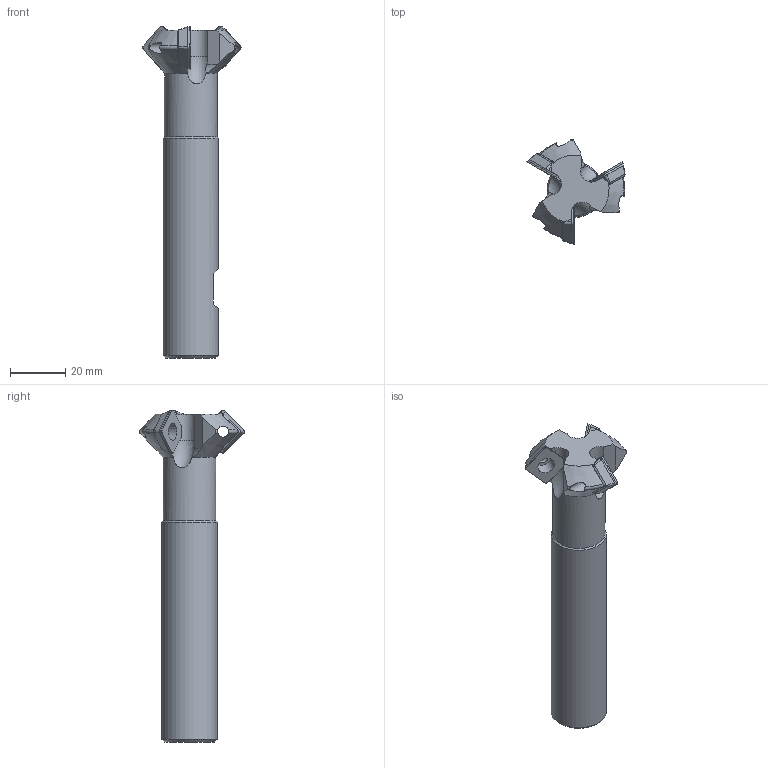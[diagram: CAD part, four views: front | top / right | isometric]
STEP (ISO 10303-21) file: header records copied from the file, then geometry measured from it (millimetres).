
FILE_DESCRIPTION(/* description */ (''),/* implementation_level */ '2;1');
FILE_NAME(/* name */ 'CE45-1125R-S20-HAAS.stp',/* time_stamp */ '2021-09-24T12:11:26+09:00',/* author */ (''),/* organization */ (''),/* preprocessor_version */ 'ST-DEVELOPER v11',/* originating_system */ 'SIEMENS UGS NX 6.0',/* authorisation */ '');
FILE_SCHEMA (('CONFIG_CONTROL_DESIGN'));
Length unit declared in the file: millimetre
Products named in the file (1): user434Awy0i
Bounding box: 35.5 x 38.06 x 120 mm (x, y, z)
Volume: 37709.7 mm3; surface area: 10479.7 mm2
Topology: 4 solids, 4 shells, 162 faces, 397 edges, 240 vertices
Faces by surface type: plane 83, bspline 48, cylinder 14, torus 9, cone 8
Full cylindrical faces by diameter (mm): 4 x3, 6.2 x3, 19 x1, 20 x1
Entity records: 4870 total; most frequent: CARTESIAN_POINT 1627, ORIENTED_EDGE 758, DIRECTION 498, EDGE_CURVE 379, VERTEX_POINT 233, EDGE_LOOP 182, LINE 166, VECTOR 166
